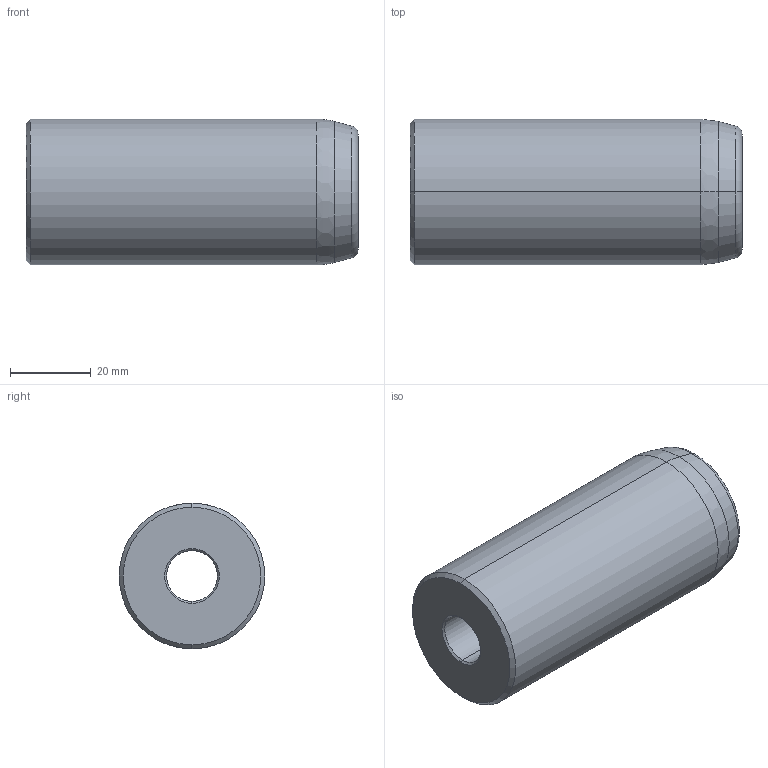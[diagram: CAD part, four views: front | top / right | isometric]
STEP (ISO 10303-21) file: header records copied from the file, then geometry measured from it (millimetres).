
FILE_DESCRIPTION (( 'STEP AP203' ), '1' );
FILE_NAME ('庋-630-35-82.STEP', '2018-09-26T06:43:00', ( '' ), ( '' ), 'SwSTEP 2.0', 'SolidWorks 2017', '' );
FILE_SCHEMA (( 'CONFIG_CONTROL_DESIGN' ));
Length unit declared in the file: millimetre
Products named in the file (1): 庋-630-35-82
Bounding box: 82 x 36 x 36 mm (x, y, z)
Volume: 51859 mm3; surface area: 16089.4 mm2
Topology: 1 solids, 1 shells, 23 faces, 46 edges, 26 vertices
Faces by surface type: cone 10, cylinder 6, torus 4, plane 3
Entity records: 679 total; most frequent: DIRECTION 124, CARTESIAN_POINT 96, ORIENTED_EDGE 92, AXIS2_PLACEMENT_3D 54, EDGE_CURVE 46, CIRCLE 30, VERTEX_POINT 26, EDGE_LOOP 26
